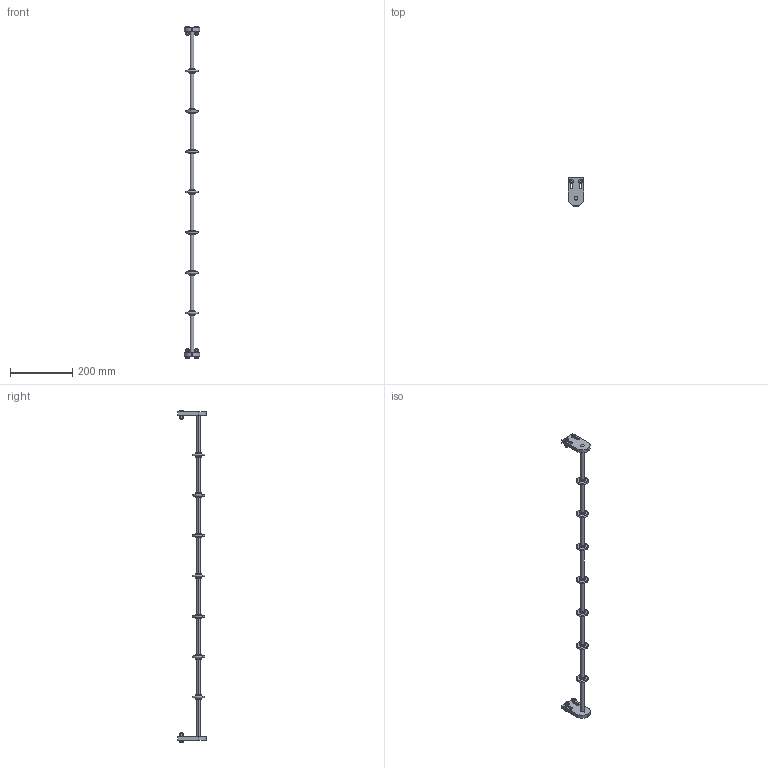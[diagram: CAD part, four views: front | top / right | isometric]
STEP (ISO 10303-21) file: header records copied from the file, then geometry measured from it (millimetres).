
FILE_DESCRIPTION (( 'STEP AP203' ), '1' );
FILE_NAME ('084.095.KSW.1000.STEP', '2019-07-30T08:44:13', ( '' ), ( '' ), 'SwSTEP 2.0', 'SolidWorks 2018', '' );
FILE_SCHEMA (( 'CONFIG_CONTROL_DESIGN' ));
Length unit declared in the file: millimetre
Products named in the file (7): 084.301.000 VITI ALUSIC_084.301.004; GRANI A PUNTA PIATTA UNI 5923_M6x16 UNI 5923; 084.802.041; 084.095.KSW.1000; Parte359^084.095.KSW.1000; 084.302.000 DADI ALUSIC 13x13-1_084.302.004; 084.802.030
Assembly tree (20 placements, depth 2):
  084.095.KSW.1000
    Parte359^084.095.KSW.1000
    084.802.041  x7
    084.802.030  x2
    GRANI A PUNTA PIATTA UNI 5923_M6x16 UNI 5923  x2
    084.301.000 VITI ALUSIC_084.301.004  x4
    084.302.000 DADI ALUSIC 13x13-1_084.302.004  x4
Bounding box: 50 x 92.5 x 1069 mm (x, y, z)
Volume: 271122.7 mm3; surface area: 100459.5 mm2
Topology: 20 solids, 20 shells, 352 faces, 798 edges, 512 vertices
Faces by surface type: plane 132, cylinder 106, cone 52, torus 46, bspline 16
Entity records: 4353 total; most frequent: CARTESIAN_POINT 997, DIRECTION 496, ORIENTED_EDGE 440, EDGE_CURVE 220, AXIS2_PLACEMENT_3D 195, VERTEX_POINT 142, EDGE_LOOP 112, VECTOR 106
